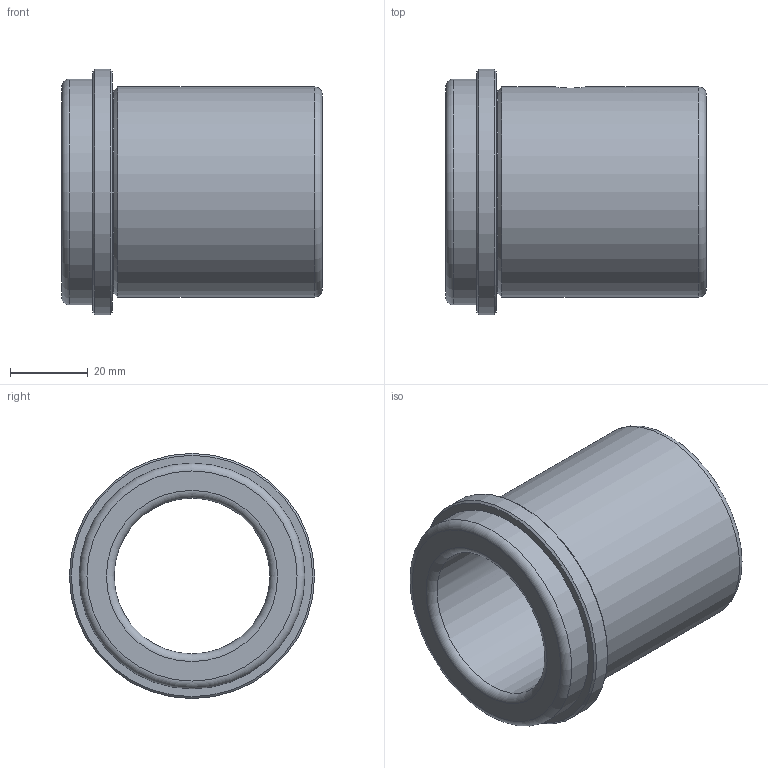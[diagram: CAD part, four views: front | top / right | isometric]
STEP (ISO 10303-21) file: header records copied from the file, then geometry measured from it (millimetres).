
FILE_DESCRIPTION( ( 'STEP AP214' ), '1' );
FILE_NAME( 'p:/temp/worker_872/temp/exporttempdir_5012_259_E78Fc/format_1/WZ - 4032 40 x 67.stp', '2020-12-03T19:42:37', ( 'License CC BY-ND 4.0' ), ( 'CADENAS' ), ' ', 'PARTsolutions', ' ' );
FILE_SCHEMA( ( 'AUTOMOTIVE_DESIGN { 1 0 10303 214 1 1 1 1 }' ) );
Length unit declared in the file: millimetre
Products named in the file (1): _WZ - 4032 40 x 67
Bounding box: 67 x 63 x 63 mm (x, y, z)
Volume: 74802.9 mm3; surface area: 23656.6 mm2
Topology: 1 solids, 1 shells, 19 faces, 34 edges, 20 vertices
Faces by surface type: cylinder 6, plane 5, torus 4, cone 4
Full cylindrical faces by diameter (mm): 8 x1, 40 x1, 52 x1, 54 x1, 58 x1, 63 x1
Entity records: 694 total; most frequent: CARTESIAN_POINT 190, DIRECTION 76, EDGE_LOOP 40, ORIENTED_EDGE 40, AXIS2_PLACEMENT_3D 38, FACE_OUTER_BOUND 29, EDGE_CURVE 20, VERTEX_POINT 20
